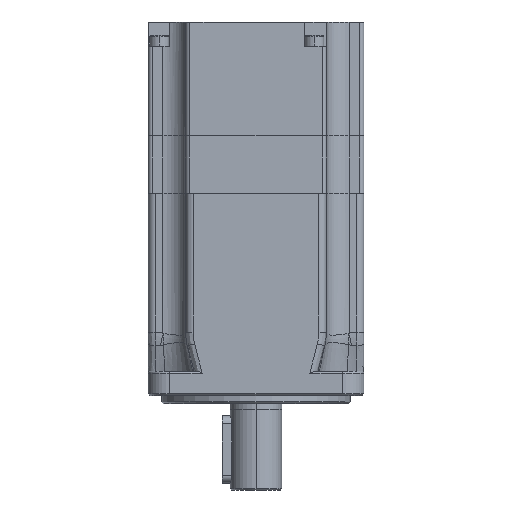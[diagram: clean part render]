
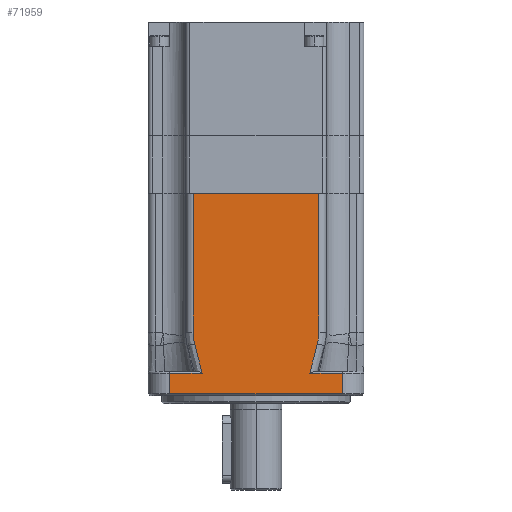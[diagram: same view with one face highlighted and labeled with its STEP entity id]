
A CAD part, front view. The second image highlights one B-rep face of the part: STEP entity #71959.
In plain terms, the highlighted planar face has unit normal (0, -1, 0).
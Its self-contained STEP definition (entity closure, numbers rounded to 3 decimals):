
#5044 = CARTESIAN_POINT ( 'NONE',  ( 20.933, -40., -23.94 ) ) ;
#5204 = CARTESIAN_POINT ( 'NONE',  ( -22.851, -40., -16.536 ) ) ;
#5557 = CARTESIAN_POINT ( 'NONE',  ( 23.333, -40., -12.461 ) ) ;
#5920 = ORIENTED_EDGE ( 'NONE', *, *, #63898, .T. ) ;
#6041 = VECTOR ( 'NONE', #13007, 1000. ) ;
#9313 = EDGE_CURVE ( 'NONE', #90611, #56160, #114974, .T. ) ;
#11991 = EDGE_CURVE ( 'NONE', #119778, #86381, #22910, .T. ) ;
#12314 = EDGE_CURVE ( 'NONE', #56160, #30019, #39992, .T. ) ;
#12510 = LINE ( 'NONE', #30149, #124421 ) ;
#12885 = CARTESIAN_POINT ( 'NONE',  ( 20.29, -40., -26.414 ) ) ;
#13007 = DIRECTION ( 'NONE',  ( 0., 0., 1. ) ) ;
#13531 = CARTESIAN_POINT ( 'NONE',  ( 22.782, -40., -16.802 ) ) ;
#13576 = DIRECTION ( 'NONE',  ( 0., 0., -1. ) ) ;
#14950 = CARTESIAN_POINT ( 'NONE',  ( -23.28, -40., -13.872 ) ) ;
#15869 = EDGE_CURVE ( 'NONE', #36017, #90611, #44914, .T. ) ;
#17648 = LINE ( 'NONE', #48258, #106811 ) ;
#18267 = CARTESIAN_POINT ( 'NONE',  ( 23.32, -40., -13.27 ) ) ;
#21873 = CARTESIAN_POINT ( 'NONE',  ( -22.782, -40., -16.802 ) ) ;
#22157 = EDGE_CURVE ( 'NONE', #126474, #34009, #17648, .T. ) ;
#22910 = B_SPLINE_CURVE_WITH_KNOTS ( 'NONE', 3,
 ( #74901, #23458, #64494, #14950, #94398, #104785, #112631, #5204, #84651 ),
 .UNSPECIFIED., .F., .F.,
 ( 4, 1, 1, 1, 1, 1, 4 ),
 ( 0., 0.167, 0.333, 0.5, 0.667, 0.833, 1. ),
 .UNSPECIFIED. ) ;
#23344 = CARTESIAN_POINT ( 'NONE',  ( -32., -40., -36. ) ) ;
#23458 = CARTESIAN_POINT ( 'NONE',  ( -23.333, -40., -12.71 ) ) ;
#24761 = ORIENTED_EDGE ( 'NONE', *, *, #12314, .T. ) ;
#25221 = ORIENTED_EDGE ( 'NONE', *, *, #95953, .T. ) ;
#25721 = CARTESIAN_POINT ( 'NONE',  ( 19.965, -40., -27.667 ) ) ;
#26684 = LINE ( 'NONE', #128177, #128565 ) ;
#26760 = CARTESIAN_POINT ( 'NONE',  ( 23.333, -40., -12.461 ) ) ;
#27564 = ORIENTED_EDGE ( 'NONE', *, *, #11991, .T. ) ;
#29473 = VERTEX_POINT ( 'NONE', #110979 ) ;
#30019 = VERTEX_POINT ( 'NONE', #72470 ) ;
#30149 = CARTESIAN_POINT ( 'NONE',  ( -40., -40., -27.667 ) ) ;
#30177 = DIRECTION ( 'NONE',  ( 0., 0., -1. ) ) ;
#31655 = CARTESIAN_POINT ( 'NONE',  ( -19.965, -40., -27.667 ) ) ;
#32732 = EDGE_CURVE ( 'NONE', #86381, #29473, #39600, .T. ) ;
#34009 = VERTEX_POINT ( 'NONE', #67707 ) ;
#34513 = CARTESIAN_POINT ( 'NONE',  ( 32., -40., -36. ) ) ;
#35921 = DIRECTION ( 'NONE',  ( 0., 0., -1. ) ) ;
#36017 = VERTEX_POINT ( 'NONE', #59048 ) ;
#37808 = CARTESIAN_POINT ( 'NONE',  ( 23.267, -40., -14.038 ) ) ;
#38386 = CARTESIAN_POINT ( 'NONE',  ( -32., -40., -27.667 ) ) ;
#39600 = B_SPLINE_CURVE_WITH_KNOTS ( 'NONE', 3,
 ( #21873, #72051, #51198, #62894, #81144, #31655 ),
 .UNSPECIFIED., .F., .F.,
 ( 4, 1, 1, 4 ),
 ( 0., 0.333, 0.667, 1. ),
 .UNSPECIFIED. ) ;
#39992 = B_SPLINE_CURVE_WITH_KNOTS ( 'NONE', 3,
 ( #64352, #12885, #5044, #54543, #44130, #13531 ),
 .UNSPECIFIED., .F., .F.,
 ( 4, 1, 1, 4 ),
 ( 0., 0.333, 0.667, 1. ),
 .UNSPECIFIED. ) ;
#40270 = EDGE_LOOP ( 'NONE', ( #99537, #116227, #24761, #25221, #98117, #79609, #5920, #27564, #48963, #82753, #51473, #81005 ) ) ;
#42905 = LINE ( 'NONE', #23344, #59175 ) ;
#44130 = CARTESIAN_POINT ( 'NONE',  ( 22.482, -40., -17.962 ) ) ;
#44914 = LINE ( 'NONE', #34513, #6041 ) ;
#46341 = DIRECTION ( 'NONE',  ( 1., 0., 0. ) ) ;
#48258 = CARTESIAN_POINT ( 'NONE',  ( 23.333, -40., 39. ) ) ;
#48963 = ORIENTED_EDGE ( 'NONE', *, *, #32732, .T. ) ;
#51198 = CARTESIAN_POINT ( 'NONE',  ( -21.874, -40., -20.314 ) ) ;
#51473 = ORIENTED_EDGE ( 'NONE', *, *, #87748, .T. ) ;
#54543 = CARTESIAN_POINT ( 'NONE',  ( 21.874, -40., -20.314 ) ) ;
#56084 = CARTESIAN_POINT ( 'NONE',  ( 23.333, -40., -12.735 ) ) ;
#56160 = VERTEX_POINT ( 'NONE', #25721 ) ;
#56702 = CARTESIAN_POINT ( 'NONE',  ( 22.956, -40., -16.085 ) ) ;
#59048 = CARTESIAN_POINT ( 'NONE',  ( 32., -40., -35.333 ) ) ;
#59115 = CARTESIAN_POINT ( 'NONE',  ( -23.333, -40., 39. ) ) ;
#59175 = VECTOR ( 'NONE', #13576, 1000. ) ;
#62894 = CARTESIAN_POINT ( 'NONE',  ( -20.933, -40., -23.94 ) ) ;
#63898 = EDGE_CURVE ( 'NONE', #126474, #119778, #26684, .T. ) ;
#64352 = CARTESIAN_POINT ( 'NONE',  ( 19.965, -40., -27.667 ) ) ;
#64494 = CARTESIAN_POINT ( 'NONE',  ( -23.322, -40., -13.196 ) ) ;
#66212 = DIRECTION ( 'NONE',  ( -1., 0., 0. ) ) ;
#67707 = CARTESIAN_POINT ( 'NONE',  ( 23.333, -40., 39. ) ) ;
#68886 = CARTESIAN_POINT ( 'NONE',  ( 32., -40., -27.667 ) ) ;
#69308 = B_SPLINE_CURVE_WITH_KNOTS ( 'NONE', 3,
 ( #126341, #87298, #56702, #106157, #77542, #37808, #18267, #56084, #26760 ),
 .UNSPECIFIED., .F., .F.,
 ( 4, 1, 1, 1, 1, 1, 4 ),
 ( 0., 0.167, 0.333, 0.5, 0.667, 0.833, 1. ),
 .UNSPECIFIED. ) ;
#71959 = ADVANCED_FACE ( 'NONE', ( #104267 ), #126363, .T. ) ;
#72051 = CARTESIAN_POINT ( 'NONE',  ( -22.482, -40., -17.962 ) ) ;
#72470 = CARTESIAN_POINT ( 'NONE',  ( 22.782, -40., -16.802 ) ) ;
#73831 = VECTOR ( 'NONE', #30177, 1000. ) ;
#74901 = CARTESIAN_POINT ( 'NONE',  ( -23.333, -40., -12.461 ) ) ;
#77419 = EDGE_CURVE ( 'NONE', #29473, #112730, #12510, .T. ) ;
#77542 = CARTESIAN_POINT ( 'NONE',  ( 23.186, -40., -14.755 ) ) ;
#77720 = LINE ( 'NONE', #78372, #73831 ) ;
#78026 = VECTOR ( 'NONE', #66212, 1000. ) ;
#78372 = CARTESIAN_POINT ( 'NONE',  ( 23.333, -40., 39. ) ) ;
#78750 = DIRECTION ( 'NONE',  ( 0., 0., -1. ) ) ;
#79609 = ORIENTED_EDGE ( 'NONE', *, *, #22157, .F. ) ;
#81005 = ORIENTED_EDGE ( 'NONE', *, *, #87803, .T. ) ;
#81144 = CARTESIAN_POINT ( 'NONE',  ( -20.29, -40., -26.414 ) ) ;
#82753 = ORIENTED_EDGE ( 'NONE', *, *, #77419, .T. ) ;
#83898 = CARTESIAN_POINT ( 'NONE',  ( 32., -40., -35.333 ) ) ;
#84651 = CARTESIAN_POINT ( 'NONE',  ( -22.782, -40., -16.802 ) ) ;
#84986 = VERTEX_POINT ( 'NONE', #5557 ) ;
#86381 = VERTEX_POINT ( 'NONE', #109667 ) ;
#87298 = CARTESIAN_POINT ( 'NONE',  ( 22.844, -40., -16.56 ) ) ;
#87748 = EDGE_CURVE ( 'NONE', #112730, #108105, #42905, .T. ) ;
#87803 = EDGE_CURVE ( 'NONE', #108105, #36017, #113810, .T. ) ;
#90611 = VERTEX_POINT ( 'NONE', #68886 ) ;
#91941 = DIRECTION ( 'NONE',  ( -1., 0., 0. ) ) ;
#94398 = CARTESIAN_POINT ( 'NONE',  ( -23.213, -40., -14.542 ) ) ;
#94499 = VECTOR ( 'NONE', #97955, 1000. ) ;
#95953 = EDGE_CURVE ( 'NONE', #30019, #84986, #69308, .T. ) ;
#97940 = CARTESIAN_POINT ( 'NONE',  ( -23.333, -40., -12.461 ) ) ;
#97955 = DIRECTION ( 'NONE',  ( 1., 0., 0. ) ) ;
#98117 = ORIENTED_EDGE ( 'NONE', *, *, #100734, .F. ) ;
#99537 = ORIENTED_EDGE ( 'NONE', *, *, #15869, .T. ) ;
#100734 = EDGE_CURVE ( 'NONE', #34009, #84986, #77720, .T. ) ;
#104267 = FACE_OUTER_BOUND ( 'NONE', #40270, .T. ) ;
#104785 = CARTESIAN_POINT ( 'NONE',  ( -23.112, -40., -15.257 ) ) ;
#106157 = CARTESIAN_POINT ( 'NONE',  ( 23.083, -40., -15.42 ) ) ;
#106177 = CARTESIAN_POINT ( 'NONE',  ( -40., -40., -36. ) ) ;
#106811 = VECTOR ( 'NONE', #46341, 1000. ) ;
#108105 = VERTEX_POINT ( 'NONE', #114361 ) ;
#109667 = CARTESIAN_POINT ( 'NONE',  ( -22.782, -40., -16.802 ) ) ;
#110979 = CARTESIAN_POINT ( 'NONE',  ( -19.965, -40., -27.667 ) ) ;
#112631 = CARTESIAN_POINT ( 'NONE',  ( -22.972, -40., -16.014 ) ) ;
#112730 = VERTEX_POINT ( 'NONE', #38386 ) ;
#113810 = LINE ( 'NONE', #83898, #94499 ) ;
#114361 = CARTESIAN_POINT ( 'NONE',  ( -32., -40., -35.333 ) ) ;
#114974 = LINE ( 'NONE', #115629, #78026 ) ;
#115312 = DIRECTION ( 'NONE',  ( 0., -1., 0. ) ) ;
#115629 = CARTESIAN_POINT ( 'NONE',  ( -40., -40., -27.667 ) ) ;
#116227 = ORIENTED_EDGE ( 'NONE', *, *, #9313, .T. ) ;
#119612 = AXIS2_PLACEMENT_3D ( 'NONE', #106177, #115312, #35921 ) ;
#119778 = VERTEX_POINT ( 'NONE', #97940 ) ;
#124421 = VECTOR ( 'NONE', #91941, 1000. ) ;
#126341 = CARTESIAN_POINT ( 'NONE',  ( 22.782, -40., -16.802 ) ) ;
#126363 = PLANE ( 'NONE',  #119612 ) ;
#126474 = VERTEX_POINT ( 'NONE', #59115 ) ;
#128177 = CARTESIAN_POINT ( 'NONE',  ( -23.333, -40., 39. ) ) ;
#128565 = VECTOR ( 'NONE', #78750, 1000. ) ;
